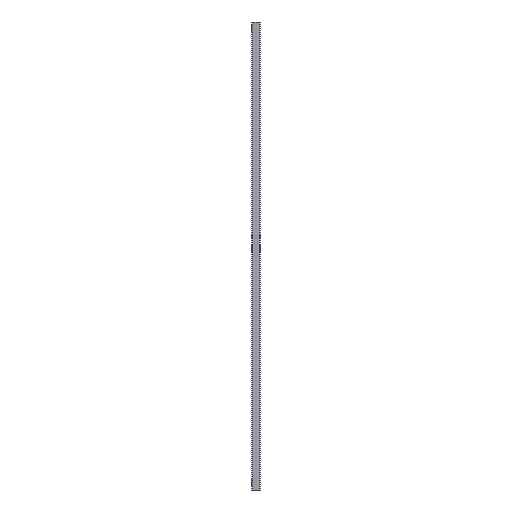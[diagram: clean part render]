
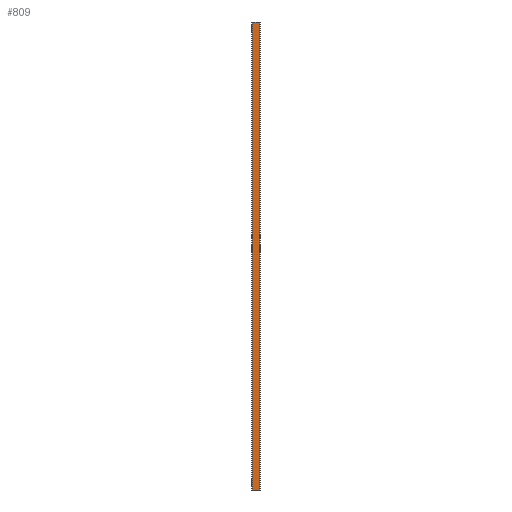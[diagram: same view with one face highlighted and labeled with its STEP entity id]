
A CAD part, left-side view. The second image highlights one B-rep face of the part: STEP entity #809.
In plain terms, the highlighted planar face has unit normal (-1, 0, 0).
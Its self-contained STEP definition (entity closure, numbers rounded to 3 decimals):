
#21 = VECTOR ( 'NONE', #465, 1000. ) ;
#64 = CARTESIAN_POINT ( 'NONE',  ( -8., 12.5, 679. ) ) ;
#108 = EDGE_LOOP ( 'NONE', ( #405, #780, #1325, #153, #1465, #414, #370, #1271 ) ) ;
#134 = EDGE_CURVE ( 'NONE', #734, #1551, #1591, .T. ) ;
#138 = CARTESIAN_POINT ( 'NONE',  ( -8., 12.5, 679. ) ) ;
#141 = VERTEX_POINT ( 'NONE', #64 ) ;
#144 = LINE ( 'NONE', #1638, #512 ) ;
#153 = ORIENTED_EDGE ( 'NONE', *, *, #1031, .F. ) ;
#200 = CARTESIAN_POINT ( 'NONE',  ( -8., 0., 0. ) ) ;
#220 = EDGE_CURVE ( 'NONE', #734, #346, #416, .T. ) ;
#226 = VERTEX_POINT ( 'NONE', #1053 ) ;
#228 = EDGE_CURVE ( 'NONE', #1547, #141, #1344, .T. ) ;
#258 = DIRECTION ( 'NONE',  ( 0., 1., 0. ) ) ;
#288 = EDGE_CURVE ( 'NONE', #295, #346, #932, .T. ) ;
#295 = VERTEX_POINT ( 'NONE', #1266 ) ;
#346 = VERTEX_POINT ( 'NONE', #446 ) ;
#347 = LINE ( 'NONE', #1707, #740 ) ;
#353 = VECTOR ( 'NONE', #527, 1000. ) ;
#370 = ORIENTED_EDGE ( 'NONE', *, *, #1537, .T. ) ;
#391 = PLANE ( 'NONE',  #619 ) ;
#405 = ORIENTED_EDGE ( 'NONE', *, *, #134, .F. ) ;
#414 = ORIENTED_EDGE ( 'NONE', *, *, #228, .T. ) ;
#416 = LINE ( 'NONE', #959, #472 ) ;
#419 = VECTOR ( 'NONE', #258, 1000. ) ;
#446 = CARTESIAN_POINT ( 'NONE',  ( -8., 0., 0. ) ) ;
#465 = DIRECTION ( 'NONE',  ( 0., 1., 0. ) ) ;
#472 = VECTOR ( 'NONE', #641, 1000. ) ;
#484 = CARTESIAN_POINT ( 'NONE',  ( -8., 3.2, 0. ) ) ;
#512 = VECTOR ( 'NONE', #524, 1000. ) ;
#524 = DIRECTION ( 'NONE',  ( 0., 1., 0. ) ) ;
#527 = DIRECTION ( 'NONE',  ( 0., 0., -1. ) ) ;
#531 = FACE_OUTER_BOUND ( 'NONE', #108, .T. ) ;
#549 = CARTESIAN_POINT ( 'NONE',  ( -8., 12.5, 0. ) ) ;
#619 = AXIS2_PLACEMENT_3D ( 'NONE', #1604, #1076, #1624 ) ;
#641 = DIRECTION ( 'NONE',  ( 0., -1., 0. ) ) ;
#729 = DIRECTION ( 'NONE',  ( 0., 0., -1. ) ) ;
#734 = VERTEX_POINT ( 'NONE', #484 ) ;
#740 = VECTOR ( 'NONE', #729, 1000. ) ;
#776 = LINE ( 'NONE', #1080, #1455 ) ;
#780 = ORIENTED_EDGE ( 'NONE', *, *, #220, .T. ) ;
#809 = ADVANCED_FACE ( 'NONE', ( #531 ), #391, .T. ) ;
#836 = VERTEX_POINT ( 'NONE', #549 ) ;
#932 = LINE ( 'NONE', #1754, #353 ) ;
#959 = CARTESIAN_POINT ( 'NONE',  ( -8., 0., 0. ) ) ;
#1004 = CARTESIAN_POINT ( 'NONE',  ( -8., 9.3, 0. ) ) ;
#1031 = EDGE_CURVE ( 'NONE', #226, #295, #1600, .T. ) ;
#1053 = CARTESIAN_POINT ( 'NONE',  ( -8., 3.2, 679. ) ) ;
#1076 = DIRECTION ( 'NONE',  ( -1., 0., 0. ) ) ;
#1080 = CARTESIAN_POINT ( 'NONE',  ( -8., 0., 679. ) ) ;
#1121 = EDGE_CURVE ( 'NONE', #1551, #836, #144, .T. ) ;
#1266 = CARTESIAN_POINT ( 'NONE',  ( -8., 0., 679. ) ) ;
#1271 = ORIENTED_EDGE ( 'NONE', *, *, #1121, .F. ) ;
#1276 = CARTESIAN_POINT ( 'NONE',  ( -8., 9.3, 679. ) ) ;
#1280 = VECTOR ( 'NONE', #1700, 1000. ) ;
#1325 = ORIENTED_EDGE ( 'NONE', *, *, #288, .F. ) ;
#1344 = LINE ( 'NONE', #138, #419 ) ;
#1455 = VECTOR ( 'NONE', #1478, 1000. ) ;
#1465 = ORIENTED_EDGE ( 'NONE', *, *, #1692, .T. ) ;
#1478 = DIRECTION ( 'NONE',  ( 0., 1., 0. ) ) ;
#1537 = EDGE_CURVE ( 'NONE', #141, #836, #347, .T. ) ;
#1547 = VERTEX_POINT ( 'NONE', #1276 ) ;
#1551 = VERTEX_POINT ( 'NONE', #1004 ) ;
#1591 = LINE ( 'NONE', #200, #21 ) ;
#1600 = LINE ( 'NONE', #1608, #1280 ) ;
#1604 = CARTESIAN_POINT ( 'NONE',  ( -8., 0., 679. ) ) ;
#1608 = CARTESIAN_POINT ( 'NONE',  ( -8., 0., 679. ) ) ;
#1624 = DIRECTION ( 'NONE',  ( 0., 0., 1. ) ) ;
#1638 = CARTESIAN_POINT ( 'NONE',  ( -8., 0., 0. ) ) ;
#1692 = EDGE_CURVE ( 'NONE', #226, #1547, #776, .T. ) ;
#1700 = DIRECTION ( 'NONE',  ( 0., -1., 0. ) ) ;
#1707 = CARTESIAN_POINT ( 'NONE',  ( -8., 12.5, 679. ) ) ;
#1754 = CARTESIAN_POINT ( 'NONE',  ( -8., 0., 679. ) ) ;
